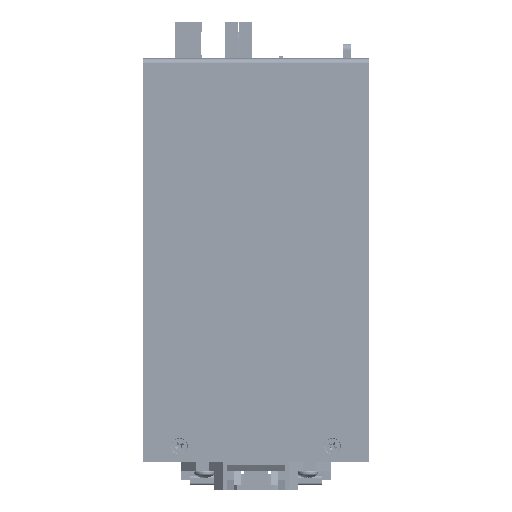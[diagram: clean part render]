
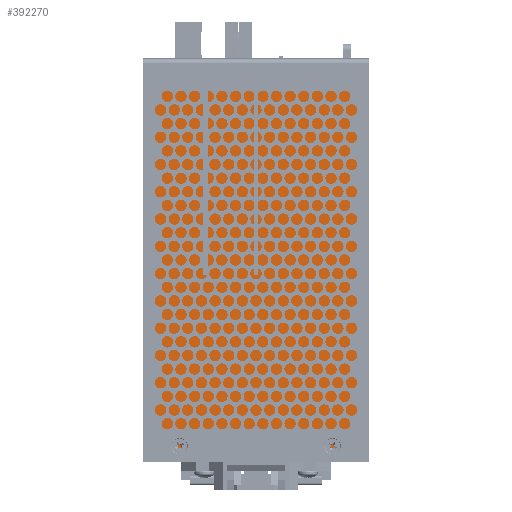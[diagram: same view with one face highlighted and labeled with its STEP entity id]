
A CAD part, front view. The second image highlights one B-rep face of the part: STEP entity #392270.
In plain terms, the highlighted planar face has unit normal (0, -1, 0) as drawn and (0, 0, 1) by its records, which use the part's own axes.
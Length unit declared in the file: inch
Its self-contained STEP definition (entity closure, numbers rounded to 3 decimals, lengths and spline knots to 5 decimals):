
#1706 = VERTEX_POINT ( 'NONE', #164190 ) ;
#3590 = CARTESIAN_POINT ( 'NONE',  ( -0.068, 5.4699, 0. ) ) ;
#9486 = EDGE_CURVE ( 'NONE', #143283, #105932, #196119, .T. ) ;
#17077 = DIRECTION ( 'NONE',  ( -1., 0., 0. ) ) ;
#27766 = EDGE_CURVE ( 'NONE', #105932, #109486, #350356, .T. ) ;
#30235 = AXIS2_PLACEMENT_3D ( 'NONE', #75236, #225865, #313103 ) ;
#34683 = CARTESIAN_POINT ( 'NONE',  ( -0.068, 5.4699, 0. ) ) ;
#36090 = EDGE_CURVE ( 'NONE', #1706, #208244, #55315, .T. ) ;
#46720 = LINE ( 'NONE', #167711, #386710 ) ;
#53316 = ORIENTED_EDGE ( 'NONE', *, *, #27766, .T. ) ;
#55315 = CIRCLE ( 'NONE', #296161, 0.032 ) ;
#59067 = PLANE ( 'NONE',  #362648 ) ;
#64655 = VERTEX_POINT ( 'NONE', #361899 ) ;
#70131 = DIRECTION ( 'NONE',  ( 1., 0., 0. ) ) ;
#72120 = DIRECTION ( 'NONE',  ( 0., 0., 1. ) ) ;
#72401 = EDGE_CURVE ( 'NONE', #109486, #1706, #238864, .T. ) ;
#75236 = CARTESIAN_POINT ( 'NONE',  ( -2.9934, 5.4699, 0. ) ) ;
#77963 = CARTESIAN_POINT ( 'NONE',  ( -3.0254, 0.0719, 0. ) ) ;
#82422 = DIRECTION ( 'NONE',  ( 0., -1., 0. ) ) ;
#105092 = ORIENTED_EDGE ( 'NONE', *, *, #9486, .T. ) ;
#105932 = VERTEX_POINT ( 'NONE', #77963 ) ;
#109486 = VERTEX_POINT ( 'NONE', #236389 ) ;
#119993 = DIRECTION ( 'NONE',  ( 0., 1., 0. ) ) ;
#130624 = ORIENTED_EDGE ( 'NONE', *, *, #72401, .T. ) ;
#143283 = VERTEX_POINT ( 'NONE', #292553 ) ;
#144547 = VECTOR ( 'NONE', #387851, 39.37008 ) ;
#145445 = VECTOR ( 'NONE', #119993, 39.37008 ) ;
#152188 = DIRECTION ( 'NONE',  ( 1., 0., 0. ) ) ;
#164190 = CARTESIAN_POINT ( 'NONE',  ( -0.036, 5.4699, 0. ) ) ;
#167711 = CARTESIAN_POINT ( 'NONE',  ( -0.068, 5.5019, 0. ) ) ;
#169491 = CIRCLE ( 'NONE', #30235, 0.032 ) ;
#188553 = EDGE_LOOP ( 'NONE', ( #53316, #130624, #391924, #195505, #234256, #105092 ) ) ;
#195505 = ORIENTED_EDGE ( 'NONE', *, *, #224738, .T. ) ;
#196119 = LINE ( 'NONE', #354037, #205101 ) ;
#205101 = VECTOR ( 'NONE', #82422, 39.37008 ) ;
#208244 = VERTEX_POINT ( 'NONE', #312981 ) ;
#224738 = EDGE_CURVE ( 'NONE', #208244, #64655, #46720, .T. ) ;
#225865 = DIRECTION ( 'NONE',  ( 0., 0., 1. ) ) ;
#234256 = ORIENTED_EDGE ( 'NONE', *, *, #348721, .T. ) ;
#236389 = CARTESIAN_POINT ( 'NONE',  ( -0.036, 0.0719, 0. ) ) ;
#238864 = LINE ( 'NONE', #270578, #145445 ) ;
#268871 = CARTESIAN_POINT ( 'NONE',  ( -3.0254, 0.0719, 0. ) ) ;
#270578 = CARTESIAN_POINT ( 'NONE',  ( -0.036, 0.0719, 0. ) ) ;
#292553 = CARTESIAN_POINT ( 'NONE',  ( -3.0254, 5.4699, 0. ) ) ;
#296161 = AXIS2_PLACEMENT_3D ( 'NONE', #34683, #72120, #70131 ) ;
#312981 = CARTESIAN_POINT ( 'NONE',  ( -0.068, 5.5019, 0. ) ) ;
#313103 = DIRECTION ( 'NONE',  ( 1., 0., 0. ) ) ;
#332498 = DIRECTION ( 'NONE',  ( 0., 0., 1. ) ) ;
#348721 = EDGE_CURVE ( 'NONE', #64655, #143283, #169491, .T. ) ;
#350356 = LINE ( 'NONE', #268871, #144547 ) ;
#354037 = CARTESIAN_POINT ( 'NONE',  ( -3.0254, 5.4699, 0. ) ) ;
#356467 = FACE_OUTER_BOUND ( 'NONE', #188553, .T. ) ;
#361899 = CARTESIAN_POINT ( 'NONE',  ( -2.9934, 5.5019, 0. ) ) ;
#362648 = AXIS2_PLACEMENT_3D ( 'NONE', #3590, #332498, #152188 ) ;
#386710 = VECTOR ( 'NONE', #17077, 39.37008 ) ;
#387851 = DIRECTION ( 'NONE',  ( 1., 0., 0. ) ) ;
#391924 = ORIENTED_EDGE ( 'NONE', *, *, #36090, .T. ) ;
#392270 = ADVANCED_FACE ( 'NONE', ( #356467 ), #59067, .T. ) ;
